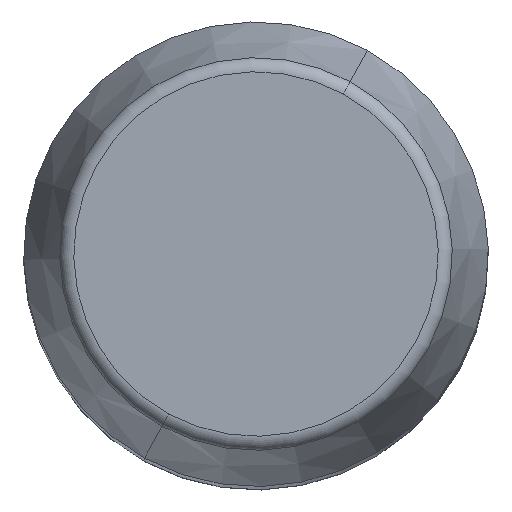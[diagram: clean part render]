
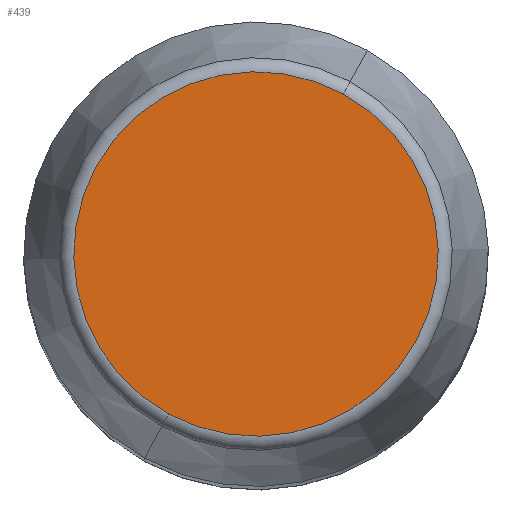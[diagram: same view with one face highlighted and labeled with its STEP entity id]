
A CAD part, top view. The second image highlights one B-rep face of the part: STEP entity #439.
In plain terms, the highlighted planar face has unit normal (0, 0, 1).
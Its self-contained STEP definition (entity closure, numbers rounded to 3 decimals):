
#391=CARTESIAN_POINT('Vertex',(-6.018,-11.016,160.)) ;
#394=CARTESIAN_POINT('Axis2P3D Location',(0.,0.,160.)) ;
#398=CARTESIAN_POINT('Vertex',(6.018,11.016,160.)) ;
#418=CARTESIAN_POINT('Axis2P3D Location',(0.,0.,160.)) ;
#430=CARTESIAN_POINT('Axis2P3D Location',(0.,12.553,160.)) ;
#395=DIRECTION('Axis2P3D Direction',(0.,0.,-1.)) ;
#419=DIRECTION('Axis2P3D Direction',(0.,0.,-1.)) ;
#431=DIRECTION('Axis2P3D Direction',(0.,0.,-1.)) ;
#432=DIRECTION('Axis2P3D XDirection',(1.,0.,0.)) ;
#396=AXIS2_PLACEMENT_3D('Circle Axis2P3D',#394,#395,$) ;
#420=AXIS2_PLACEMENT_3D('Circle Axis2P3D',#418,#419,$) ;
#433=AXIS2_PLACEMENT_3D('Plane Axis2P3D',#430,#431,#432) ;
#436=ORIENTED_EDGE('',*,*,#422,.F.) ;
#437=ORIENTED_EDGE('',*,*,#400,.F.) ;
#439=ADVANCED_FACE('PartBody',(#438),#434,.F.) ;
#397=CIRCLE('generated circle',#396,12.553) ;
#421=CIRCLE('generated circle',#420,12.553) ;
#400=EDGE_CURVE('',#392,#399,#397,.T.) ;
#422=EDGE_CURVE('',#399,#392,#421,.T.) ;
#435=EDGE_LOOP('',(#436,#437)) ;
#438=FACE_OUTER_BOUND('',#435,.T.) ;
#434=PLANE('Plane',#433) ;
#392=VERTEX_POINT('',#391) ;
#399=VERTEX_POINT('',#398) ;
